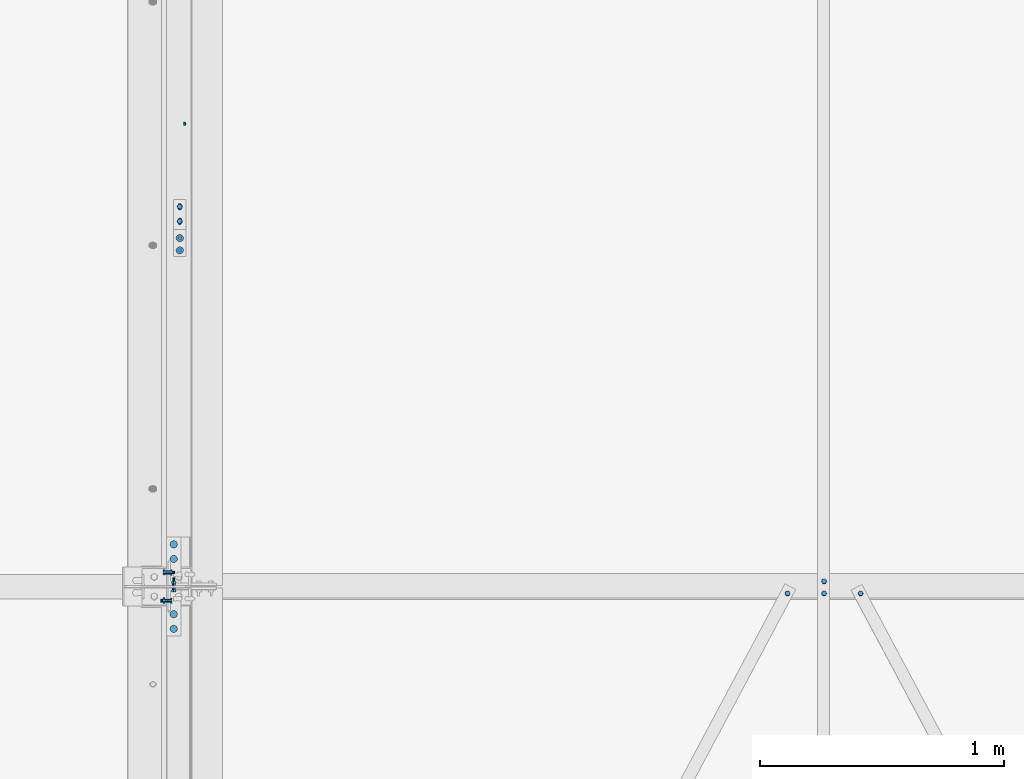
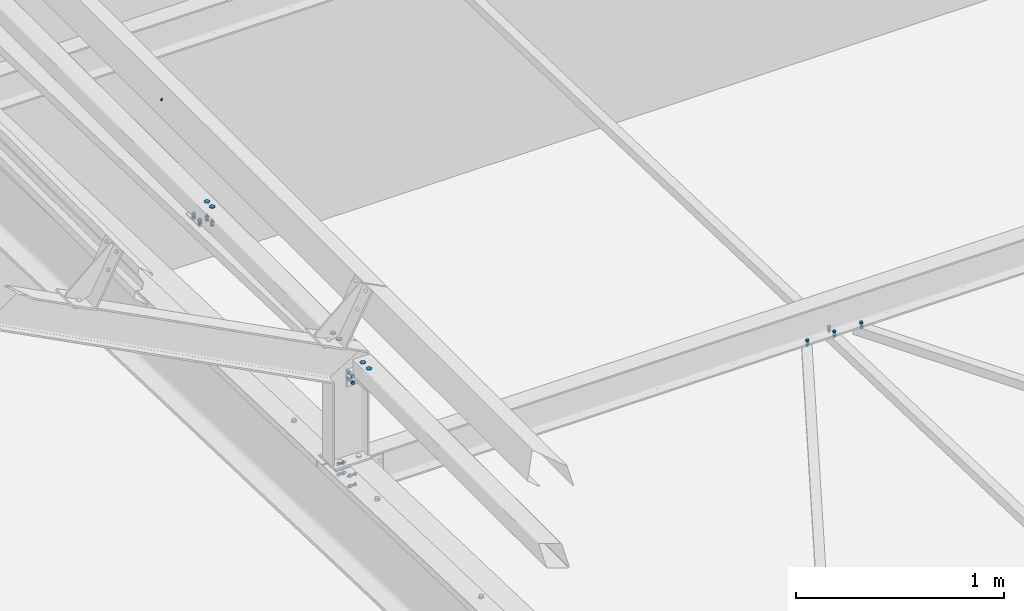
# One storey, part 277 of 362: 12 mechanical fasteners.
"""IFC2X3 building model written with IfcOpenShell, lengths in millimetres."""

from ifc_helpers import new_model, si_unit, frame, frame_2d, origin_with_axes, origin_2d_with_axis, place, context, subcontext, project, spatial, polyline, circle_curve, parameter, trimmed, segment, composite_curve, circle, outline, extrude, source, transform, mapped, material, type_object, element, save


model = new_model("IFC2X3")

# Units and contexts
model_context = context("Model", 3, precision=1e-05, world=origin_with_axes())
body_context = subcontext(model_context, "Body", "Model", "MODEL_VIEW")
ifc_project = project(units=[si_unit("LENGTHUNIT", "METRE", prefix="MILLI"), si_unit("AREAUNIT", "SQUARE_METRE"), si_unit("VOLUMEUNIT", "CUBIC_METRE"), si_unit("MASSUNIT", "GRAM", prefix="KILO"), si_unit("TIMEUNIT", "SECOND"), si_unit("PLANEANGLEUNIT", "RADIAN"), si_unit("SOLIDANGLEUNIT", "STERADIAN"), si_unit("THERMODYNAMICTEMPERATUREUNIT", "DEGREE_CELSIUS"), si_unit("LUMINOUSINTENSITYUNIT", "LUMEN")], contexts=[model_context])

# Site, building, storey
site_placement = place(None, origin_with_axes())
site = spatial("IfcSite", under=ifc_project, at=site_placement, Name="Undefined", CompositionType="ELEMENT")
building_placement = place(site_placement, origin_with_axes())
building = spatial("IfcBuilding", under=site, at=building_placement, Name="Undefined", CompositionType="ELEMENT")
storey_placement = place(building_placement, origin_with_axes())
storey = spatial("IfcBuildingStorey", under=building, at=storey_placement, Name="Undefined", CompositionType="ELEMENT", Elevation=0.0)

# Mechanical fasteners
ifc_material_1 = material(Name="6.8")
mechanical_fastener_type = type_object("IfcMechanicalFastenerType", Name="Bolt assembly")
shared_shape_1 = source(origin_with_axes(), body_context, "Body", "SweptSolid", [
    extrude(circle(Radius=7.0, at=origin_2d_with_axis()), frame((0.0, 0.0, 0.0), z_axis=(0.0, 1.0, 0.0), x_axis=(1.0, 0.0, 0.0)), (0.0, 0.0, 1.0), 3.1),
])
mechanical_fastener_1_placement = place(storey_placement, frame((28953.4915880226, 5700.00002040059, 8856.57208676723), z_axis=(0.0, -1.0, 0.0), x_axis=(-0.460093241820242, 0.0, -0.887870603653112)))
element("IfcMechanicalFastener", 1, at=mechanical_fastener_1_placement, inside=storey, type_object=mechanical_fastener_type, material=ifc_material_1, Name="Bolt assembly", NominalDiameter=12.0, NominalLength=3.0, context=body_context, shape_type="MappedRepresentation", body=[
    mapped(shared_shape_1, transform((0.0, 0.0, 0.0))),
])
shared_shape_2 = source(origin_with_axes(), body_context, "Body", "SweptSolid", [
    extrude(circle(Radius=15.0, at=origin_2d_with_axis()), frame((0.0, 0.0, 0.0), z_axis=(0.0, 1.0, 0.0), x_axis=(1.0, 0.0, 0.0)), (0.0, 0.0, 1.0), 4.1),
])
mechanical_fastener_2_placement = place(storey_placement, frame((28935.0, 5230.39, 8550.0), z_axis=(1.0, 0.0, 0.0), x_axis=(0.0, -1.0, 0.0)))
element("IfcMechanicalFastener", 2, at=mechanical_fastener_2_placement, inside=storey, type_object=mechanical_fastener_type, material=ifc_material_1, Name="Bolt assembly", NominalDiameter=30.0, NominalLength=4.0, context=body_context, shape_type="MappedRepresentation", body=[
    mapped(shared_shape_2, transform((0.0, 0.0, 0.0))),
    mapped(shared_shape_2, transform((49.9999999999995, 0.0, -3.63797880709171e-12))),
])
for number, where, z_axis, x_axis, name in (
    (3, (28910.0, 3973.5, 8550.0), (1.0, 0.0, 0.0), (0.0, -1.0, 0.0), "Bolt assembly"),
    (4, (28910.0, 3626.5, 8550.0), (-1.0, 0.0, 0.0), (0.0, 1.0, 0.0), "Bolt assembly"),
):
    element("IfcMechanicalFastener", number, at=place(storey_placement, frame(where, z_axis=z_axis, x_axis=x_axis)), inside=storey, type_object=mechanical_fastener_type, material=ifc_material_1, Name=name, NominalDiameter=30.0, NominalLength=4.0, context=body_context, shape_type="MappedRepresentation", body=[
        mapped(shared_shape_2, transform((0.0, 0.0, 0.0))),
        mapped(shared_shape_2, transform((60.0, 0.0, 0.0))),
    ])
ifc_material_2 = material(Name="8.8-SB-ZINGUE")
shared_shape_3 = source(origin_with_axes(), body_context, "Body", "SweptSolid", [
    extrude(circle(Radius=7.0, at=origin_2d_with_axis()), frame((0.0, -8.3962195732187, 0.0), z_axis=(0.0, 1.0, 0.0), x_axis=(1.0, 0.0, 0.0)), (0.0, 0.0, 1.0), 8.5),
    extrude(circle(Radius=7.0, at=origin_2d_with_axis()), frame((0.0, -0.100011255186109, 0.0), z_axis=(0.0, 1.0, 0.0), x_axis=(1.0, 0.0, 0.0)), (0.0, 0.0, 1.0), 5.1),
    extrude(outline(polyline([(10.39230484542, 0.0), (5.19615242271, 9.00000000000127), (-5.19615242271, 9.00000000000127), (-10.39230484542, 0.0), (-5.19615242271, -9.00000000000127), (5.19615242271, -9.00000000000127), (10.39230484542, 0.0)])), frame((0.0, -16.4162195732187, 0.0), z_axis=(0.0, 1.0, 0.0), x_axis=(1.0, 0.0, 0.0)), (0.0, 0.0, 1.0), 7.92),
    extrude(circle(Radius=6.0, at=origin_2d_with_axis()), frame((0.0, -8.4962195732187, 0.0), z_axis=(0.0, 1.0, 0.0), x_axis=(1.0, 0.0, 0.0)), (0.0, 0.0, 1.0), 30.0),
    extrude(outline(polyline([(11.5008173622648, 0.0), (5.7504086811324, 9.96000000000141), (-5.7504086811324, 9.96000000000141), (-11.5008173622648, 0.0), (-5.7504086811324, -9.96000000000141), (5.7504086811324, -9.96000000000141), (11.5008173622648, 0.0)])), frame((0.0, 5.0, 0.0), z_axis=(0.0, 1.0, 0.0), x_axis=(1.0, 0.0, 0.0)), (0.0, 0.0, 1.0), 7.92),
])
for number, where, z_axis, x_axis, name in (
    (5, (31430.0000126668, 3771.87689895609, 7731.37042514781), (0.0, -0.999506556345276, 0.031410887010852), (-1.0, 0.0, 0.0), "Bolt assembly"),
    (6, (31730.0000126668, 3771.87689895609, 7731.3704251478), (0.0, -0.999506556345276, 0.031410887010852), (-1.0, 0.0, 0.0), "Bolt assembly"),
):
    element("IfcMechanicalFastener", number, at=place(storey_placement, frame(where, z_axis=z_axis, x_axis=x_axis)), inside=storey, type_object=mechanical_fastener_type, material=ifc_material_2, Name=name, NominalDiameter=12.0, NominalLength=30.0, context=body_context, shape_type="MappedRepresentation", body=[
        mapped(shared_shape_3, transform((0.0, 0.0, 0.0))),
    ])
mechanical_fastener_3_placement = place(storey_placement, frame((31580.0000126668, 3796.86456268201, 7730.58514469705), z_axis=(0.0, -0.999506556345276, 0.031410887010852), x_axis=(-1.0, 0.0, 0.0)))
element("IfcMechanicalFastener", 7, at=mechanical_fastener_3_placement, inside=storey, type_object=mechanical_fastener_type, material=ifc_material_2, Name="Bolt assembly", NominalDiameter=12.0, NominalLength=30.0, context=body_context, shape_type="MappedRepresentation", body=[
    mapped(shared_shape_3, transform((0.0, 0.0, -25.0))),
    mapped(shared_shape_3, transform((0.0, 0.0, 25.0))),
])
shared_shape_4 = source(origin_with_axes(), body_context, "Body", "SweptSolid", [
    extrude(circle(Radius=7.0, at=origin_2d_with_axis()), frame((0.0, -0.100011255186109, 0.0), z_axis=(0.0, 1.0, 0.0), x_axis=(1.0, 0.0, 0.0)), (0.0, 0.0, 1.0), 4.1),
    extrude(circle(Radius=7.0, at=origin_2d_with_axis()), frame((0.0, -5.8999542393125, 0.0), z_axis=(0.0, 1.0, 0.0), x_axis=(1.0, 0.0, 0.0)), (0.0, 0.0, 1.0), 6.0),
    extrude(outline(polyline([(10.39230484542, 0.0), (5.19615242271, 9.00000000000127), (-5.19615242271, 9.00000000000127), (-10.39230484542, 0.0), (-5.19615242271, -9.00000000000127), (5.19615242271, -9.00000000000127), (10.39230484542, 0.0)])), frame((0.0, -13.9199542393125, 0.0), z_axis=(0.0, 1.0, 0.0), x_axis=(1.0, 0.0, 0.0)), (0.0, 0.0, 1.0), 7.92),
    extrude(circle(Radius=6.0, at=origin_2d_with_axis()), frame((0.0, -5.9999542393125, 0.0), z_axis=(0.0, 1.0, 0.0), x_axis=(1.0, 0.0, 0.0)), (0.0, 0.0, 1.0), 30.0),
    extrude(outline(polyline([(11.5008173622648, 0.0), (5.7504086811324, 9.96000000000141), (-5.7504086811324, 9.96000000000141), (-11.5008173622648, 0.0), (-5.7504086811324, -9.96000000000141), (5.7504086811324, -9.96000000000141), (11.5008173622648, 0.0)])), frame((0.0, 4.00000005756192, 0.0), z_axis=(0.0, 1.0, 0.0), x_axis=(1.0, 0.0, 0.0)), (0.0, 0.0, 1.0), 7.92),
])
mechanical_fastener_4_placement = place(storey_placement, frame((28935.0, 5180.38587692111, 8450.0), z_axis=(1.0, 0.0, 0.0), x_axis=(0.0, 1.0, 0.0)))
element("IfcMechanicalFastener", 8, at=mechanical_fastener_4_placement, inside=storey, type_object=mechanical_fastener_type, material=ifc_material_2, Name="Bolt assembly", NominalDiameter=12.0, NominalLength=30.0, context=body_context, shape_type="MappedRepresentation", body=[
    mapped(shared_shape_4, transform((0.0, 0.0, 0.0))),
    mapped(shared_shape_4, transform((49.9999999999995, 0.0, -3.63797880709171e-12))),
])
shared_shape_5 = source(origin_with_axes(), body_context, "Body", "SweptSolid", [
    extrude(circle(Radius=7.0, at=origin_2d_with_axis()), frame((0.0, -0.100011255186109, 0.0), z_axis=(0.0, 1.0, 0.0), x_axis=(1.0, 0.0, 0.0)), (0.0, 0.0, 1.0), 4.1),
    extrude(outline(composite_curve([segment(polyline([(-7.0, 7.0), (7.0, 7.0)]), True, "CONTINUOUS"), segment(trimmed(circle_curve(frame_2d((7.0, 0.0), x_axis=(0.0, 1.0)), 7.0), [parameter(0.0)], [parameter(3.14159265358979)], False, "PARAMETER"), True, "CONTINUOUS"), segment(polyline([(7.0, -7.0), (-7.0, -7.0)]), True, "CONTINUOUS"), segment(trimmed(circle_curve(frame_2d((-7.0, 0.0), x_axis=(0.0, -1.0)), 7.0), [parameter(0.0)], [parameter(3.14159265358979)], False, "PARAMETER"), True, "DISCONTINUOUS")], self_intersect=False)), frame((0.0, -5.8999542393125, 0.0), z_axis=(0.0, 1.0, 0.0), x_axis=(1.0, 0.0, 0.0)), (0.0, 0.0, 1.0), 6.0),
    extrude(outline(polyline([(10.39230484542, 0.0), (5.19615242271, 9.00000000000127), (-5.19615242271, 9.00000000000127), (-10.39230484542, 0.0), (-5.19615242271, -9.00000000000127), (5.19615242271, -9.00000000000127), (10.39230484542, 0.0)])), frame((0.0, -17.8800021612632, 0.0), z_axis=(0.0, 1.0, 0.0), x_axis=(1.0, 0.0, 0.0)), (0.0, 0.0, 1.0), 7.92),
    extrude(circle(Radius=6.0, at=origin_2d_with_axis()), frame((0.0, -9.96000216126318, 0.0), z_axis=(0.0, 1.0, 0.0), x_axis=(1.0, 0.0, 0.0)), (0.0, 0.0, 1.0), 30.0),
    extrude(circle(Radius=10.8, at=origin_2d_with_axis()), frame((0.0, -9.96000216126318, 0.0), z_axis=(0.0, 1.0, 0.0), x_axis=(1.0, 0.0, 0.0)), (0.0, 0.0, 1.0), 3.96),
    extrude(outline(polyline([(11.5008173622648, 0.0), (5.7504086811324, 9.96000000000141), (-5.7504086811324, 9.96000000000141), (-11.5008173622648, 0.0), (-5.7504086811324, -9.96000000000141), (5.7504086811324, -9.96000000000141), (11.5008173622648, 0.0)])), frame((0.0, 4.00000005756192, 0.0), z_axis=(0.0, 1.0, 0.0), x_axis=(1.0, 0.0, 0.0)), (0.0, 0.0, 1.0), 7.92),
])
mechanical_fastener_5_placement = place(storey_placement, frame((28935.0, 5359.3365202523, 8386.85855943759), z_axis=(1.0, 0.0, 0.0), x_axis=(0.0, -0.999506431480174, 0.0314148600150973)))
element("IfcMechanicalFastener", 9, at=mechanical_fastener_5_placement, inside=storey, type_object=mechanical_fastener_type, material=ifc_material_2, Name="Bolt assembly", NominalDiameter=12.0, NominalLength=30.0, context=body_context, shape_type="MappedRepresentation", body=[
    mapped(shared_shape_5, transform((0.0, 0.0, 0.0))),
    mapped(shared_shape_5, transform((60.0, 0.0, 0.0))),
])
shared_shape_6 = source(origin_with_axes(), body_context, "Body", "SweptSolid", [
    extrude(circle(Radius=7.0, at=origin_2d_with_axis()), frame((0.0, -2.80010483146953, 0.0), z_axis=(0.0, 1.0, 0.0), x_axis=(1.0, 0.0, 0.0)), (0.0, 0.0, 1.0), 5.6),
    extrude(circle(Radius=7.0, at=origin_2d_with_axis()), frame((0.0, 3.3998951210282, 0.0), z_axis=(0.0, 1.0, 0.0), x_axis=(1.0, 0.0, 0.0)), (0.0, 0.0, 1.0), 10.1),
    extrude(circle(Radius=7.0, at=origin_2d_with_axis()), frame((0.0, -13.4001048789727, 0.0), z_axis=(0.0, 1.0, 0.0), x_axis=(1.0, 0.0, 0.0)), (0.0, 0.0, 1.0), 10.0),
    extrude(outline(polyline([(10.39230484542, 0.0), (5.19615242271, 9.00000000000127), (-5.19615242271, 9.00000000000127), (-10.39230484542, 0.0), (-5.19615242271, -9.00000000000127), (5.19615242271, -9.00000000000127), (10.39230484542, 0.0)])), frame((0.0, -21.4201048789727, 0.0), z_axis=(0.0, 1.0, 0.0), x_axis=(1.0, 0.0, 0.0)), (0.0, 0.0, 1.0), 7.92),
    extrude(circle(Radius=6.0, at=origin_2d_with_axis()), frame((0.0, -13.5000574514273, 0.0), z_axis=(0.0, 1.0, 0.0), x_axis=(1.0, 0.0, 0.0)), (0.0, 0.0, 1.0), 50.0),
    extrude(outline(polyline([(11.5008173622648, 0.0), (5.7504086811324, 9.96000000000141), (-5.7504086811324, 9.96000000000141), (-11.5008173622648, 0.0), (-5.7504086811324, -9.96000000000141), (5.7504086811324, -9.96000000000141), (11.5008173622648, 0.0)])), frame((0.0, 13.4998951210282, 0.0), z_axis=(0.0, 1.0, 0.0), x_axis=(1.0, 0.0, 0.0)), (0.0, 0.0, 1.0), 7.92),
])
mechanical_fastener_6_placement = place(storey_placement, frame((28910.0, 3800.00010487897, 8370.0), z_axis=(-1.0, 0.0, 0.0), x_axis=(0.0, 0.0, 1.0)))
element("IfcMechanicalFastener", 10, at=mechanical_fastener_6_placement, inside=storey, type_object=mechanical_fastener_type, material=ifc_material_2, Name="Bolt assembly", NominalDiameter=12.0, NominalLength=50.0, context=body_context, shape_type="MappedRepresentation", body=[
    mapped(shared_shape_6, transform((0.0, 0.0, 0.0))),
    mapped(shared_shape_6, transform((40.0, 0.0, 0.0))),
])
shared_shape_7 = source(origin_with_axes(), body_context, "Body", "SweptSolid", [
    extrude(circle(Radius=7.0, at=origin_2d_with_axis()), frame((0.0, -5.45000018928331, 0.0), z_axis=(0.0, 1.0, 0.0), x_axis=(1.0, 0.0, 0.0)), (0.0, 0.0, 1.0), 11.1),
    extrude(circle(Radius=7.0, at=origin_2d_with_axis()), frame((0.0, 5.90002706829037, 0.0), z_axis=(0.0, 1.0, 0.0), x_axis=(1.0, 0.0, 0.0)), (0.0, 0.0, 1.0), 10.1),
    extrude(outline(polyline([(10.39230484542, 0.0), (5.19615242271, 9.00000000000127), (-5.19615242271, 9.00000000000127), (-10.39230484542, 0.0), (-5.19615242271, -9.00000000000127), (5.19615242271, -9.00000000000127), (10.39230484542, 0.0)])), frame((0.0, -13.4700001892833, 0.0), z_axis=(0.0, 1.0, 0.0), x_axis=(1.0, 0.0, 0.0)), (0.0, 0.0, 1.0), 7.92),
    extrude(circle(Radius=6.0, at=origin_2d_with_axis()), frame((0.0, -5.55000018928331, 0.0), z_axis=(0.0, 1.0, 0.0), x_axis=(1.0, 0.0, 0.0)), (0.0, 0.0, 1.0), 40.0),
    extrude(outline(polyline([(11.5008173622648, 0.0), (5.7504086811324, 9.96000000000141), (-5.7504086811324, 9.96000000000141), (-11.5008173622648, 0.0), (-5.7504086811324, -9.96000000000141), (5.7504086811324, -9.96000000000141), (11.5008173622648, 0.0)])), frame((0.0, 15.9999999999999, 0.0), z_axis=(0.0, 1.0, 0.0), x_axis=(1.0, 0.0, 0.0)), (0.0, 0.0, 1.0), 7.92),
])
mechanical_fastener_7_placement = place(storey_placement, frame((28880.0, 3857.97178109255, 7828.70940676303), z_axis=(7.58071938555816e-11, 0.0314107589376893, 0.999506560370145), x_axis=(0.0, -0.999506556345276, 0.031410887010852)))
element("IfcMechanicalFastener", 11, at=mechanical_fastener_7_placement, inside=storey, type_object=mechanical_fastener_type, material=ifc_material_2, Name="Bolt assembly", NominalDiameter=12.0, NominalLength=40.0, context=body_context, shape_type="MappedRepresentation", body=[
    mapped(shared_shape_7, transform((0.0, 0.0, -30.0))),
    mapped(shared_shape_7, transform((0.0, 0.0, 30.0))),
])
shared_shape_8 = source(origin_with_axes(), body_context, "Body", "SweptSolid", [
    extrude(circle(Radius=7.0, at=origin_2d_with_axis()), frame((0.0, -5.65000019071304, 0.0), z_axis=(0.0, 1.0, 0.0), x_axis=(1.0, 0.0, 0.0)), (0.0, 0.0, 1.0), 11.2),
    extrude(circle(Radius=7.0, at=origin_2d_with_axis()), frame((0.0, -15.9000004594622, 0.0), z_axis=(0.0, 1.0, 0.0), x_axis=(1.0, 0.0, 0.0)), (0.0, 0.0, 1.0), 10.0),
    extrude(outline(polyline([(10.39230484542, 0.0), (5.19615242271, 9.00000000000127), (-5.19615242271, 9.00000000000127), (-10.39230484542, 0.0), (-5.19615242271, -9.00000000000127), (5.19615242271, -9.00000000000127), (10.39230484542, 0.0)])), frame((0.0, -23.9200004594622, 0.0), z_axis=(0.0, 1.0, 0.0), x_axis=(1.0, 0.0, 0.0)), (0.0, 0.0, 1.0), 7.92),
    extrude(circle(Radius=6.0, at=origin_2d_with_axis()), frame((0.0, -16.0000004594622, 0.0), z_axis=(0.0, 1.0, 0.0), x_axis=(1.0, 0.0, 0.0)), (0.0, 0.0, 1.0), 40.0),
    extrude(outline(polyline([(11.5008173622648, 0.0), (5.7504086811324, 9.96000000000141), (-5.7504086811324, 9.96000000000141), (-11.5008173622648, 0.0), (-5.7504086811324, -9.96000000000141), (5.7504086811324, -9.96000000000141), (11.5008173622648, 0.0)])), frame((0.0, 5.55000018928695, 0.0), z_axis=(0.0, 1.0, 0.0), x_axis=(1.0, 0.0, 0.0)), (0.0, 0.0, 1.0), 7.92),
])
mechanical_fastener_8_placement = place(storey_placement, frame((28880.0, 3742.02815990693, 7832.35313513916), z_axis=(7.58071938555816e-11, 0.0314107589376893, 0.999506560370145), x_axis=(3.14103090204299e-11, 0.999506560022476, -0.0314107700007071)))
element("IfcMechanicalFastener", 12, at=mechanical_fastener_8_placement, inside=storey, type_object=mechanical_fastener_type, material=ifc_material_2, Name="Bolt assembly", NominalDiameter=12.0, NominalLength=40.0, context=body_context, shape_type="MappedRepresentation", body=[
    mapped(shared_shape_8, transform((0.0, 0.0, -30.0))),
    mapped(shared_shape_8, transform((0.0, 0.0, 30.0))),
])

save(model, "model.ifc")
